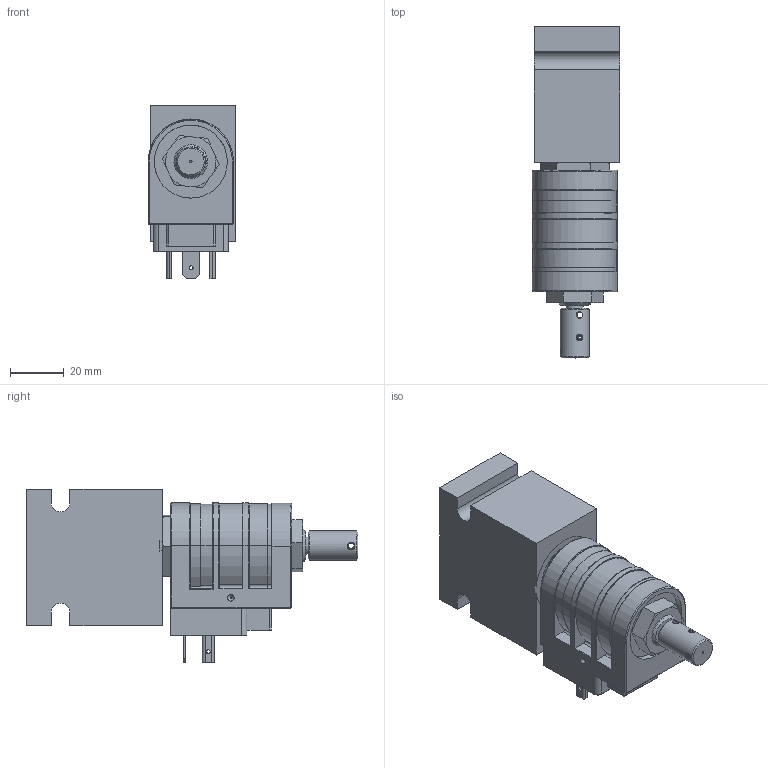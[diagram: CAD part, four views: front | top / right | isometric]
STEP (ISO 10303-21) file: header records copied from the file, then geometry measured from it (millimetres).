
FILE_DESCRIPTION( ( 'Unknown' ), '1' );
FILE_NAME( 'G:/Graphic Design/Graphic Design 2/Data Sheets/SOLENOID OPERATED VALVES/4_STEP/2W2P Normally Closed/PB-S2G0M-A2.stp', 'Unknown', ( 'Unknown' ), ( 'Unknown' ), 'PSStep 15.0.49', 'Unknown', ' ' );
FILE_SCHEMA( ( 'AUTOMOTIVE_DESIGN { 1 0 10303 214 1 1 1 1 }' ) );
Length unit declared in the file: millimetre
Products named in the file (18): D-PB-S2G-0M-delta; PBS2G0M-3D Full1; PBS2G0M-3D Full2; PBS2G0M-3D Full3; PBS2G0M-3D Full4; PBS2G0M-3D Full5; PBS2G0M-3D Full6; Delta_1_2_nut1 - Copy; D-PHC12; PHC_Body; PHC_Disc; PHC_HirschThread; PT-EL-HC-TerminalConnectors; Assem1; B-DPBA2
Assembly tree (18 placements, depth 3):
  Assem1
    B-DPBA2
    D-PHC12
      PHC_Body
      PHC_Disc  x2
      PHC_HirschThread
      PT-EL-HC-TerminalConnectors
      PT-EL-HC-TerminalConnectors
      PT-EL-HC-TerminalConnectors
      PT-EL-HC-TerminalConnectors
    D-PB-S2G-0M-delta
      PBS2G0M-3D Full1
      PBS2G0M-3D Full2
      PBS2G0M-3D Full3
      PBS2G0M-3D Full4
      PBS2G0M-3D Full5
      PBS2G0M-3D Full6
      Delta_1_2_nut1 - Copy
Bounding box: 32.62 x 123.44 x 64.59 mm (x, y, z)
Volume: 133071.7 mm3; surface area: 39000.6 mm2
Topology: 16 solids, 16 shells, 477 faces, 1120 edges, 682 vertices
Faces by surface type: plane 166, cone 149, cylinder 139, torus 17, sphere 6
Full cylindrical faces by diameter (mm): 0.2 x2, 0.5 x2, 0.889 x2, 1 x1, 1.5 x3, 2.426 x2, 3.175 x6, 4 x2, 4.623 x1, 6.388 x1, 6.922 x1, 7.938 x1, 7.948 x1, 9.842 x1, 9.893 x2, 10.161 x1, 10.5 x1, 10.922 x1, 10.938 x1, 11 x1, 11.5 x4, 12.548 x1, 12.586 x2, 12.624 x2, 12.675 x1, 12.7 x1, 13 x1, 13.05 x2, 15.824 x1, 16.751 x1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
Entity records: 16337 total; most frequent: CARTESIAN_POINT 3332, DIRECTION 2125, ORIENTED_EDGE 1800, AXIS2_PLACEMENT_3D 901, EDGE_CURVE 900, EDGE_LOOP 706, VERTEX_POINT 652, FACE_OUTER_BOUND 531
